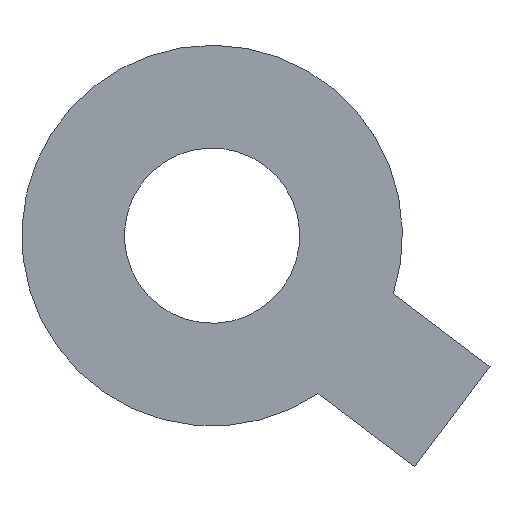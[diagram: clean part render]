
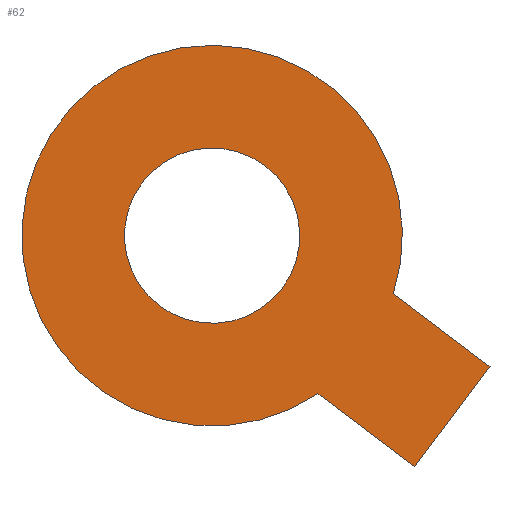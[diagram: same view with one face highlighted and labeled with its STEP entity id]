
A CAD part, left-side view. The second image highlights one B-rep face of the part: STEP entity #62.
In plain terms, the highlighted planar face has unit normal (-1, 0, 0).
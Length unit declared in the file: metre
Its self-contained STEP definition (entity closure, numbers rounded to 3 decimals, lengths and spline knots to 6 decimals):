
#12=PLANE('',#71);
#15=LINE('',#104,#20);
#16=LINE('',#106,#21);
#17=LINE('',#108,#22);
#20=VECTOR('',#86,1.);
#21=VECTOR('',#87,1.);
#22=VECTOR('',#88,1.);
#27=ORIENTED_EDGE('',*,*,#37,.T.);
#28=ORIENTED_EDGE('',*,*,#33,.T.);
#29=ORIENTED_EDGE('',*,*,#38,.T.);
#30=ORIENTED_EDGE('',*,*,#39,.T.);
#31=ORIENTED_EDGE('',*,*,#40,.F.);
#32=ORIENTED_EDGE('',*,*,#41,.F.);
#33=EDGE_CURVE('NONE',#42,#43,#50,.F.);
#37=EDGE_CURVE('NONE',#46,#42,#15,.T.);
#38=EDGE_CURVE('NONE',#43,#47,#16,.F.);
#39=EDGE_CURVE('NONE',#47,#46,#17,.T.);
#40=EDGE_CURVE('NONE',#48,#49,#52,.T.);
#41=EDGE_CURVE('NONE',#49,#48,#53,.T.);
#42=VERTEX_POINT('',#96);
#43=VERTEX_POINT('',#97);
#46=VERTEX_POINT('',#105);
#47=VERTEX_POINT('',#107);
#48=VERTEX_POINT('',#110);
#49=VERTEX_POINT('',#111);
#50=CIRCLE('',#69,0.00193);
#52=CIRCLE('',#72,0.000889);
#53=CIRCLE('',#73,0.000889);
#55=EDGE_LOOP('',(#27,#28,#29,#30));
#56=EDGE_LOOP('',(#31,#32));
#58=FACE_BOUND('',#55,.T.);
#59=FACE_BOUND('',#56,.T.);
#62=ADVANCED_FACE('NONE',(#58,#59),#12,.T.);
#69=AXIS2_PLACEMENT_3D('',#95,#78,#79);
#71=AXIS2_PLACEMENT_3D('',#103,#84,#85);
#72=AXIS2_PLACEMENT_3D('',#109,#89,#90);
#73=AXIS2_PLACEMENT_3D('',#112,#91,#92);
#78=DIRECTION('',(1.,0.,0.));
#79=DIRECTION('',(0.,0.,1.));
#84=DIRECTION('',(-1.,0.,0.));
#85=DIRECTION('',(0.,-0.602,0.799));
#86=DIRECTION('',(0.,0.799,0.602));
#87=DIRECTION('',(0.,0.799,0.602));
#88=DIRECTION('',(0.,-0.602,0.799));
#89=DIRECTION('',(-1.,0.,0.));
#90=DIRECTION('',(0.,0.602,-0.799));
#91=DIRECTION('',(-1.,0.,0.));
#92=DIRECTION('',(0.,-0.602,0.799));
#95=CARTESIAN_POINT('',(0.024109,-0.054417,0.006432));
#96=CARTESIAN_POINT('',(0.024109,-0.056255,0.005842));
#97=CARTESIAN_POINT('',(0.024109,-0.055491,0.004828));
#103=CARTESIAN_POINT('',(0.024109,-0.054417,0.006432));
#104=CARTESIAN_POINT('',(0.024109,-0.0548,0.006939));
#105=CARTESIAN_POINT('',(0.024109,-0.057235,0.005103));
#106=CARTESIAN_POINT('',(0.024109,-0.054035,0.005925));
#107=CARTESIAN_POINT('',(0.024109,-0.056471,0.004089));
#108=CARTESIAN_POINT('',(0.024109,-0.056853,0.004596));
#109=CARTESIAN_POINT('',(0.024109,-0.054417,0.006432));
#110=CARTESIAN_POINT('',(0.024109,-0.054952,0.007142));
#111=CARTESIAN_POINT('',(0.024109,-0.053882,0.005722));
#112=CARTESIAN_POINT('',(0.024109,-0.054417,0.006432));
